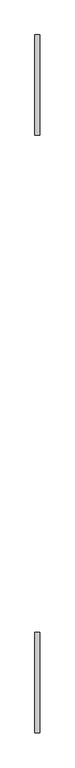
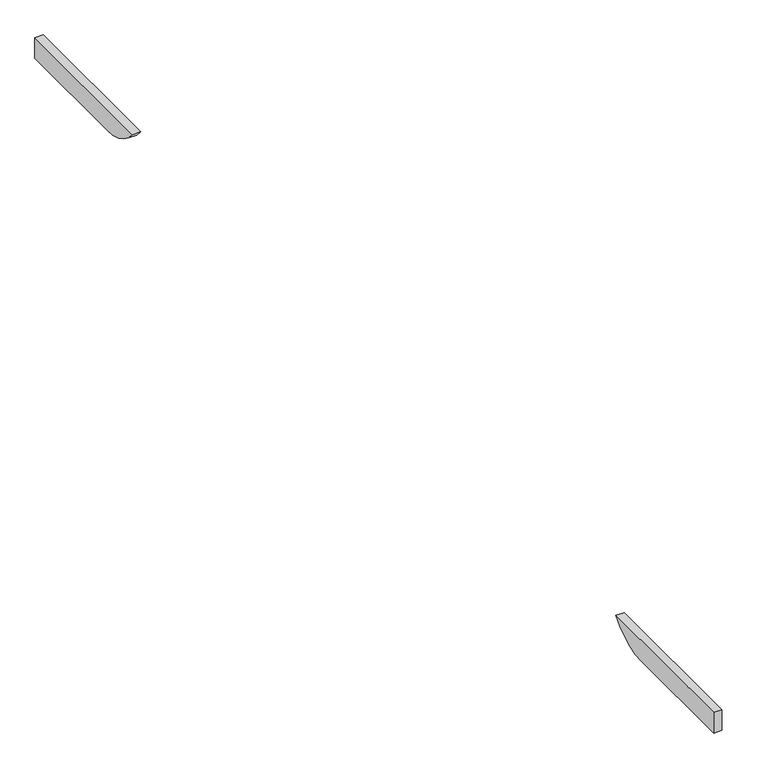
"""IFC4 building model written with IfcOpenShell, lengths in millimetres: proxy geometry, Modelos genéricos 2 : Modelos genéricos 2."""

from ifc_helpers import new_model, si_unit, point, frame, frame_2d, origin, place, context, project, spatial, polyline, circle_curve, trimmed, segment, composite_curve, outline, extrude, source, transform, mapped, element, save


def generic_models_d6b20abb(model_context):
    return source(origin(), model_context, "Body", "SweptSolid", [
        extrude(outline(composite_curve([segment(polyline([(-2331.3761835, 2840.0), (-2331.3761835, 3000.0), (-1101.3761835, 3000.0)]), True, "CONTINUOUS"), segment(trimmed(circle_curve(frame_2d((-1421.3761835, 3240.0)), 400.0), [point((-1101.3761835, 3000.0))], [point((-1421.3761835, 2840.0))], False, "CARTESIAN"), True, "CONTINUOUS"), segment(polyline([(-1421.3761835, 2840.0), (-2331.3761835, 2840.0)]), True, "CONTINUOUS")], self_intersect=False)), frame((-12676.5527533, 0.0, 0.0), z_axis=(1.0, 0.0, 0.0), x_axis=(0.0, 1.0, 0.0)), (0.0, 0.0, 1.0), 60.0),
        extrude(outline(composite_curve([segment(polyline([(6228.6238165, 2840.0), (5318.6238165, 2840.0)]), True, "CONTINUOUS"), segment(trimmed(circle_curve(frame_2d((5318.6238165, 3240.0)), 400.0), [point((5318.6238165, 2840.0))], [point((4998.6238165, 3000.0))], False, "CARTESIAN"), True, "CONTINUOUS"), segment(polyline([(4998.6238165, 3000.0), (6228.6238165, 3000.0), (6228.6238165, 2840.0)]), True, "CONTINUOUS")], self_intersect=False)), frame((-12676.5527533, 0.0, 0.0), z_axis=(1.0, 0.0, 0.0), x_axis=(0.0, 1.0, 0.0)), (0.0, 0.0, 1.0), 60.0),
    ])


if __name__ == "__main__":
    model = new_model("IFC4")
    model_context = context("Model", 3, world=origin())
    ifc_project = project(units=[si_unit("LENGTHUNIT", "METRE", prefix="MILLI")], contexts=[model_context])
    site = spatial("IfcSite", under=ifc_project)
    building = spatial("IfcBuilding", under=site)
    placement = place(None, origin())
    generic_models_shape = generic_models_d6b20abb(model_context)
    element("IfcBuildingElementProxy", 1, Name="Modelos genéricos 2 : Modelos genéricos 2", ObjectType="Modelos genéricos 2 : Modelos genéricos 2", at=placement, inside=building, context=model_context, shape_type="MappedRepresentation", body=[
        mapped(generic_models_shape, transform((0.0, 0.0, 0.0), x_axis=(1.0, 0.0, 0.0), y_axis=(0.0, 1.0, 0.0), z_axis=(0.0, 0.0, 1.0))),
    ])
    save(model, "model.ifc")
